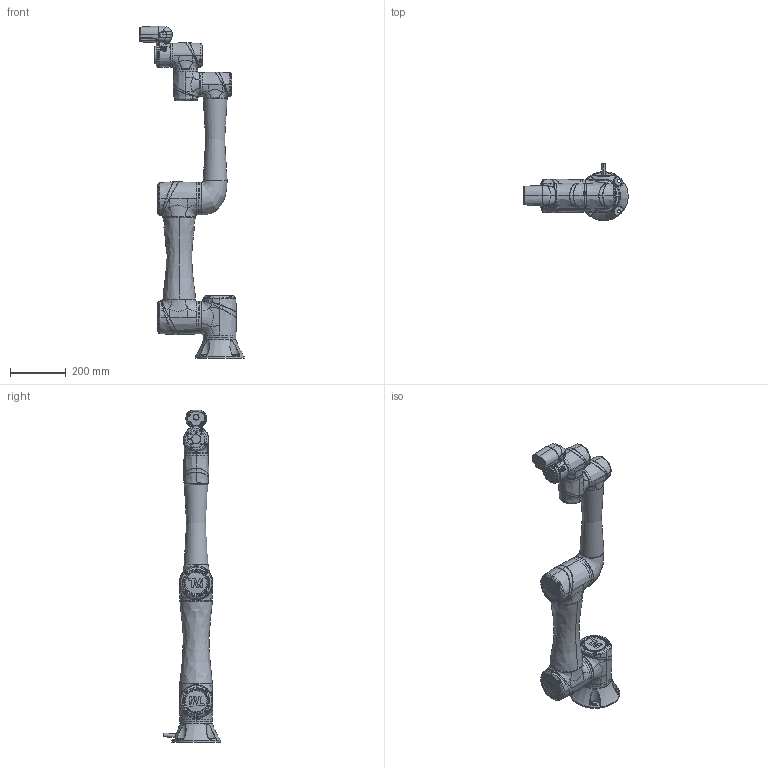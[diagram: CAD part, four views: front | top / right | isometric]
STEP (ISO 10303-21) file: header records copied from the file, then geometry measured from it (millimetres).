
FILE_DESCRIPTION((''),'2;1');
FILE_NAME('TM5A-900-WEB_ASM_13_ASM','2018-07-24T',('Jacque.Huang'),(''),'CREO PARAMETRIC BY PTC INC, 2015290','CREO PARAMETRIC BY PTC INC, 2015290','');
FILE_SCHEMA(('CONFIG_CONTROL_DESIGN'));
Products named in the file (29): OFLANGE400_7_2; HS400_7_2; COVER400-UNI_7_4; M3_9_2; JT400-TM5A_ASM; AM1900_3_2; JL; ARM2900_3_4; OFLANGE100_7_2; HS100-TM5A_6_2; COVER100-UNI_6_4; JT100-TM5A_ASM; IO_MAIN_F_41_3_4; LENS_38_3_1; IO_CAP_F_109_3_2; M5_16_6_3_1; 8A_05PFFS_SH7001_16_3_2; PBS_12H_ON_EX_27_3_2; IO_CAMERA_F_50_3_2; LIGHT_DIFFUSION_42_3_1; LIGHT_GLASS_31_3_1; IOMC_ASM_3_ASM_1_ASM; M3_8_19_3_1; IOM_ASM; TM5A-900-WEB_ASM_3_ASM_1_ASM; BS_4_5; WIREASSY_4_1; BASE-TM5A_ASM_4_ASM_2_ASM; TM5A-900-WEB_ASM_13_ASM
Assembly tree (46 placements, depth 5):
  TM5A-900-WEB_ASM_13_ASM
    TM5A-900-WEB_ASM_3_ASM_1_ASM
      JT400-TM5A_ASM  x3
        OFLANGE400_7_2
        HS400_7_2
        COVER400-UNI_7_4
        M3_9_2
      AM1900_3_2
      JL
      ARM2900_3_4
      JT100-TM5A_ASM  x3
        OFLANGE100_7_2
        HS100-TM5A_6_2
        COVER100-UNI_6_4
        M3_9_2
      IOM_ASM
        IO_MAIN_F_41_3_4
        LENS_38_3_1
        IO_CAP_F_109_3_2
        M5_16_6_3_1  x4
        8A_05PFFS_SH7001_16_3_2  x2
        PBS_12H_ON_EX_27_3_2  x4
        IOMC_ASM_3_ASM_1_ASM
          IO_CAMERA_F_50_3_2
          LIGHT_DIFFUSION_42_3_1
          LIGHT_GLASS_31_3_1
        M3_8_19_3_1  x2
    BASE-TM5A_ASM_4_ASM_2_ASM
      BS_4_5
      WIREASSY_4_1
Bounding box: 375.86 x 206.22 x 1196.56 mm (x, y, z)
Volume: 14588125.6 mm3; surface area: 1044978.3 mm2
Topology: 62 solids, 64 shells, 2981 faces, 7663 edges, 4944 vertices
Faces by surface type: bspline 1074, plane 1022, cylinder 415, torus 183, extrusion 145, cone 114, revolution 24, sphere 4
Entity records: 85989 total; most frequent: CARTESIAN_POINT 55099, ORIENTED_EDGE 7262, DIRECTION 4736, EDGE_CURVE 3631, VERTEX_POINT 2332, B_SPLINE_CURVE_WITH_KNOTS 1899, AXIS2_PLACEMENT_3D 1830, EDGE_LOOP 1525
